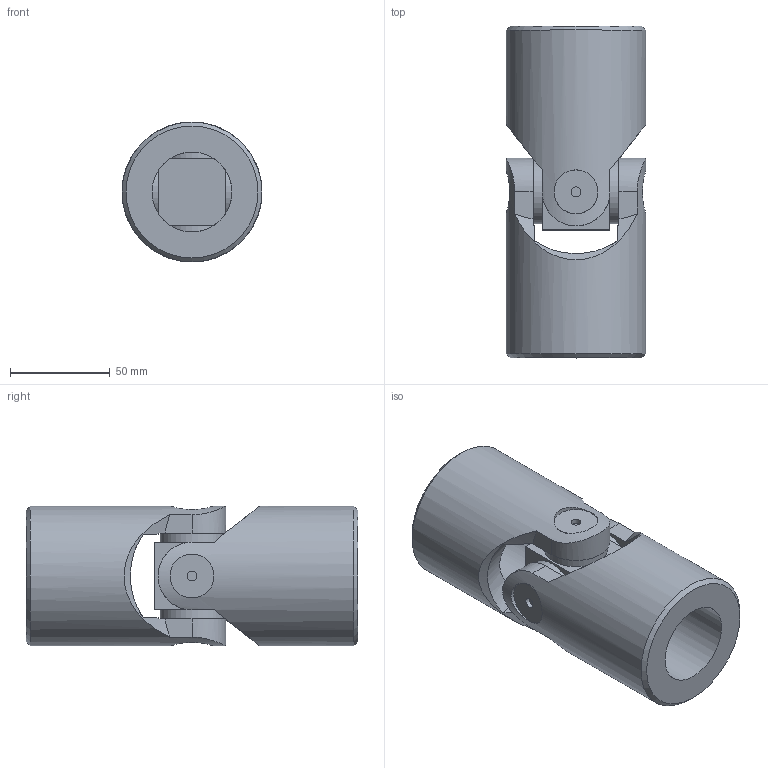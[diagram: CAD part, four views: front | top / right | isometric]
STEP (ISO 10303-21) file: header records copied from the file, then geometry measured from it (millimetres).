
FILE_DESCRIPTION(/* description */ (''),/* implementation_level */ '2;1');
FILE_NAME(/* name */ '\\SRV2016\Societa\Stefano\Disegni 3D\Dis. Clienti\0000Catalogo 3D\01Singoli G-GB\8GB-00_SGBS4000.stp',/* time_stamp */ '2021-11-10T14:48:44+01:00',/* author */ ('acquisti'),/* organization */ (''),/* preprocessor_version */ 'ST-DEVELOPER v15.6',/* originating_system */ 'Autodesk Inventor 2015',/* authorisation */ '');
FILE_SCHEMA (('AUTOMOTIVE_DESIGN { 1 0 10303 214 3 1 1 }'));
Length unit declared in the file: millimetre
Products named in the file (3): 7G SFE; 8GB MOS; Assieme10
Assembly tree (3 placements, depth 2):
  Assieme10
    7G SFE
    8GB MOS  x2
Bounding box: 70 x 166 x 70 mm (x, y, z)
Volume: 407431.4 mm3; surface area: 71656.6 mm2
Topology: 3 solids, 3 shells, 68 faces, 162 edges, 110 vertices
Faces by surface type: plane 36, cylinder 20, cone 10, torus 2
Full cylindrical faces by diameter (mm): 5 x4, 22 x4, 32 x4, 40 x2, 70 x2
Entity records: 1387 total; most frequent: CARTESIAN_POINT 470, DIRECTION 176, ORIENTED_EDGE 160, EDGE_CURVE 80, AXIS2_PLACEMENT_3D 76, EDGE_LOOP 62, VERTEX_POINT 62, FACE_OUTER_BOUND 41
